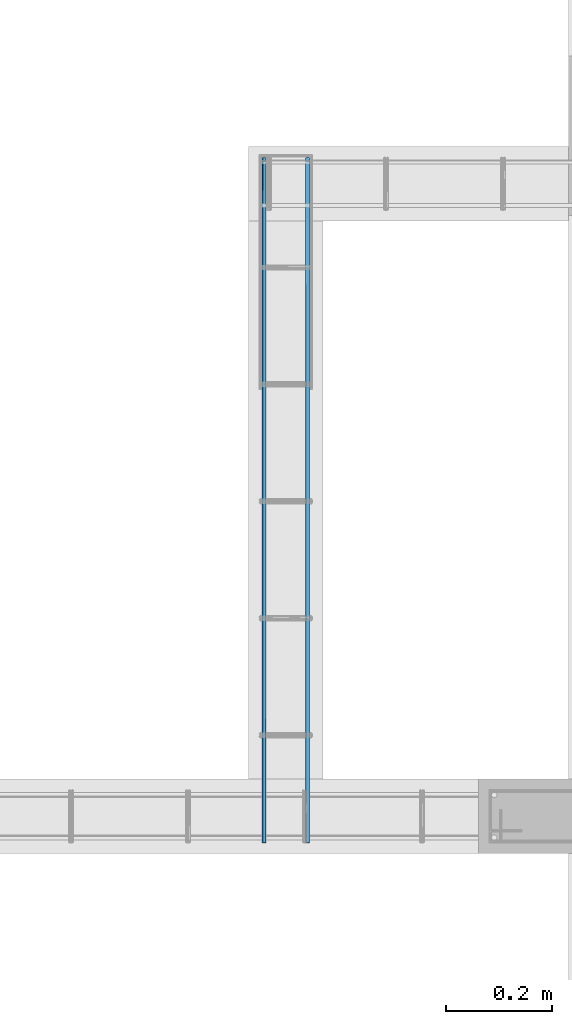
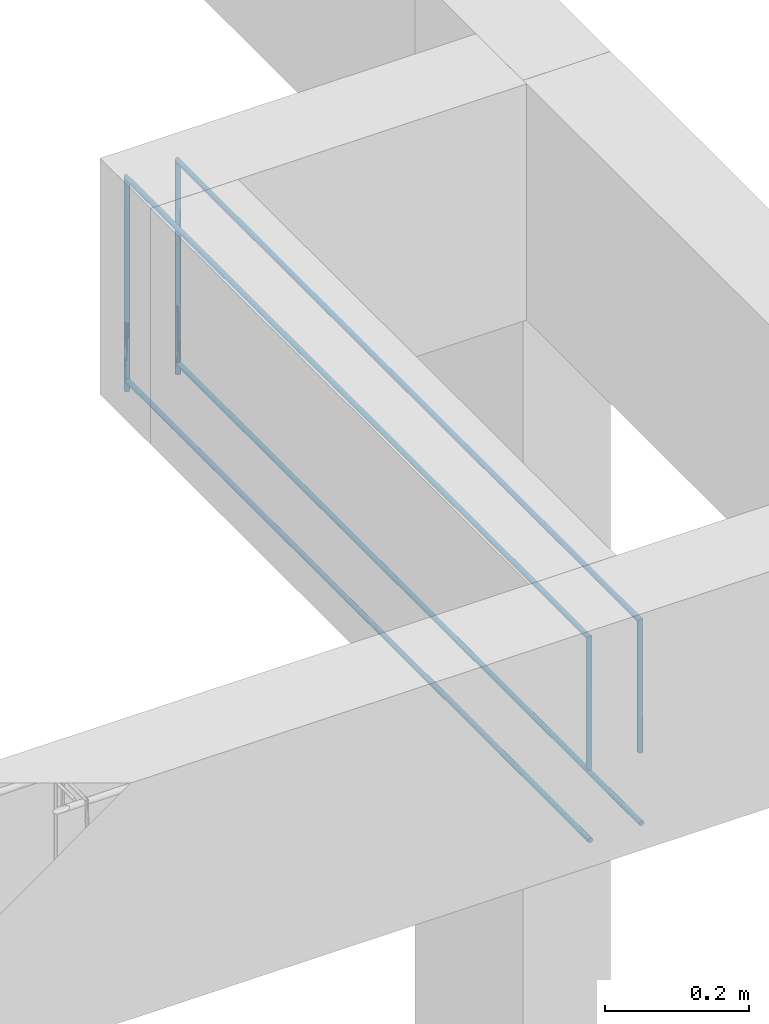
# One storey, part 29 of 236: 4 reinforcing bars.
"""IFC4 building model written with IfcOpenShell, lengths in centimetres."""

from ifc_helpers import new_model, entity, si_unit, derived_unit, frame, origin_with_axes, place, context, project, spatial, element, save


model = new_model("IFC4")

# Units and contexts
model_context = context("Model", 3, precision=1e-05, world=origin_with_axes(), identifier="Body")
ifc_project = project(units=[si_unit("LENGTHUNIT", "METRE", prefix="CENTI"), si_unit("VOLUMEUNIT", "CUBIC_METRE"), si_unit("AREAUNIT", "SQUARE_METRE"), si_unit("POWERUNIT", "WATT"), si_unit("LUMINOUSFLUXUNIT", "LUMEN"), si_unit("ELECTRICCURRENTUNIT", "AMPERE"), si_unit("PRESSUREUNIT", "PASCAL", prefix="KILO"), si_unit("MASSUNIT", "GRAM", prefix="KILO"), si_unit("PLANEANGLEUNIT", "RADIAN"), derived_unit("VOLUMETRICFLOWRATEUNIT", [(si_unit("LENGTHUNIT", "METRE"), 3), (si_unit("TIMEUNIT", "SECOND"), -1)])], contexts=[model_context])

# Site, building, storey
site_placement = place(None, frame((-4000.0, 0.0, 0.0), z_axis=(0.0, 0.0, 1.0), x_axis=(1.0, 0.0, 0.0)))
site = spatial("IfcSite", under=ifc_project, at=site_placement, Name="PADRÃO")
building_placement = place(site_placement, frame((0.0, 0.0, -14.0)))
building = spatial("IfcBuilding", under=site, at=building_placement, Name="CRECHE PRÉ-ESCOLA TIPO 2")
placement_1 = place(building_placement, origin_with_axes())
placement_2 = place(placement_1, frame((0.0, 0.0, 30.0), z_axis=(0.0, 0.0, 1.0), x_axis=(1.0, 0.0, 0.0)))
storey_placement = place(placement_2, frame((0.0, 0.0, 310.0), z_axis=(0.0, 0.0, 1.0), x_axis=(1.0, 0.0, 0.0)))
storey = spatial("IfcBuildingStorey", under=building, at=storey_placement, Name="TERREO", CompositionType="ELEMENT", Elevation=326.0)

# Reinforcing bars
for number, where, z_axis, x_axis, name in (
    (1, (1054.4, 1362.0018751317, -27.1), (0.0, 0.0, 1.0), (1.0, 0.0, 0.0), "V274 - Longitudinal inferior"),
    (2, (1062.6, 1362.0018751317, -27.1), (0.0, 0.0, 1.0), (1.0, 0.0, 0.0), "V274 - Longitudinal inferior"),
):
    element("IfcReinforcingBar", number, at=place(storey_placement, frame(where, z_axis=z_axis, x_axis=x_axis)), inside=storey, Name=name, BarLength=0.0, CrossSectionArea=5.0265482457e-05, NominalDiameter=0.8, PredefinedType="MAIN", context=model_context, shape_type="AdvancedSweptSolid", body=[
        entity("IfcSweptDiskSolid", entity("IfcCompositeCurve", [entity("IfcCompositeCurveSegment", "CONTINUOUS", True, entity("IfcPolyline", [entity("IfcCartesianPoint", [0.0, -64.5018751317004, -10.0]), entity("IfcCartesianPoint", [0.0, 64.0981248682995, -10.0])])), entity("IfcCompositeCurveSegment", "CONTINUOUS", True, entity("IfcPolyline", [entity("IfcCartesianPoint", [0.0, 64.0981248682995, -10.0]), entity("IfcCartesianPoint", [0.0, 64.0981248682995, 0.0])]))], False), 0.4),
    ])
for number, where, z_axis, x_axis, name in (
    (3, (1062.6, 1362.0, -2.49624973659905), (0.0, 0.0, 1.0), (1.0, 0.0, 0.0), "V274 - Longitudinal superior"),
    (4, (1054.4, 1362.0, -2.49624973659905), (0.0, 0.0, 1.0), (1.0, 0.0, 0.0), "V274 - Longitudinal superior"),
):
    element("IfcReinforcingBar", number, at=place(storey_placement, frame(where, z_axis=z_axis, x_axis=x_axis)), inside=storey, Name=name, BarLength=0.0, CrossSectionArea=5.0265482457e-05, NominalDiameter=0.8, PredefinedType="MAIN", context=model_context, shape_type="AdvancedSweptSolid", body=[
        entity("IfcSweptDiskSolid", entity("IfcCompositeCurve", [entity("IfcCompositeCurveSegment", "CONTINUOUS", True, entity("IfcPolyline", [entity("IfcCartesianPoint", [0.0, -64.1, -22.7014629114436]), entity("IfcCartesianPoint", [0.0, -64.1, -0.403750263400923])])), entity("IfcCompositeCurveSegment", "CONTINUOUS", True, entity("IfcPolyline", [entity("IfcCartesianPoint", [0.0, -64.1, -0.403750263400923]), entity("IfcCartesianPoint", [0.0, 64.1, -0.403750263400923])])), entity("IfcCompositeCurveSegment", "CONTINUOUS", True, entity("IfcPolyline", [entity("IfcCartesianPoint", [0.0, 64.1, -0.403750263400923]), entity("IfcCartesianPoint", [0.0, 64.1, -36.4037502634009])]))], False), 0.4),
    ])

save(model, "model.ifc")
